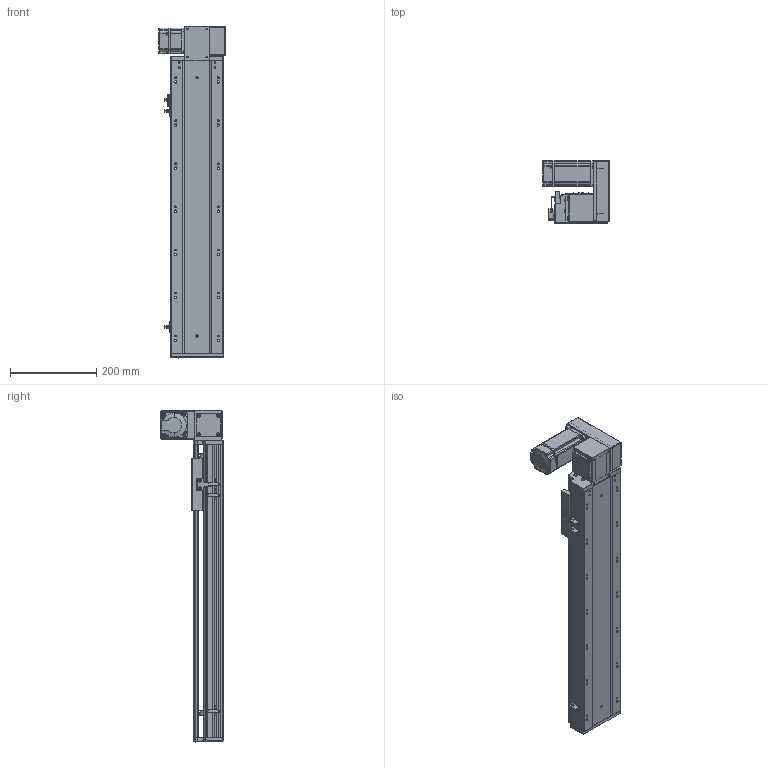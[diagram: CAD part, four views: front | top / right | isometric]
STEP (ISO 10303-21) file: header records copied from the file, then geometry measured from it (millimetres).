
FILE_DESCRIPTION (( 'STEP AP203' ), '1' );
FILE_NAME ('RY120-T-300-UR.SLDASM_450.step', '2021-03-01T05:55:44', ( '盈信电脑' ), ( '东莞市道滘镇水果街19号' ), 'SwSTEP 2.0', 'SolidWorks 2012', '' );
FILE_SCHEMA (( 'CONFIG_CONTROL_DESIGN' ));
Length unit declared in the file: millimetre
Products named in the file (17): RY120-T-300-UR.SLDASM_450; RY120-T蹟翐M4; 15; RY120-T主同步轮轴承压盖; RY120-T萇儂欶; RY120-T萇儂假蚾啣; 滅袉蝶18-10; RY120-T翋肮祭盓傅釱; RY120-T翋肮祭謫裔啣; RY120外置感应片(140共用）; RY120-T肮祭湍揤踡輸2; RY120-T肮祭湍揤踡輸1; RY120肮祭湍臏賑輸; RY120-T-300-UR倰第奻裔啣_450; 覜茼ん672; RY120綴裔啣; RY120-T-300-UR倰第菁釱_450
Assembly tree (22 placements, depth 2):
  RY120-T-300-UR.SLDASM_450
    RY120-T-300-UR倰第菁釱_450
    RY120-T-300-UR倰第奻裔啣_450
    RY120肮祭湍臏賑輸
    RY120綴裔啣
    覜茼ん672  x3
    RY120外置感应片(140共用）
    RY120-T肮祭湍揤踡輸1
    RY120-T肮祭湍揤踡輸2
    RY120-T翋肮祭盓傅釱
    RY120-T萇儂假蚾啣
    滅袉蝶18-10  x2
    RY120-T翋肮祭謫裔啣
    15
    RY120-T蹟翐M4  x4
    RY120-T萇儂欶
    RY120-T主同步轮轴承压盖
Bounding box: 155.5 x 146 x 771 mm (x, y, z)
Volume: 2409601.6 mm3; surface area: 874244 mm2
Topology: 23 solids, 23 shells, 2752 faces, 7512 edges, 4838 vertices
Faces by surface type: plane 1416, cylinder 1030, cone 217, bspline 89
Entity records: 87769 total; most frequent: CARTESIAN_POINT 22380, ORIENTED_EDGE 13512, DIRECTION 12726, EDGE_CURVE 6756, VERTEX_POINT 4425, VECTOR 4248, LINE 4248, AXIS2_PLACEMENT_3D 4239
